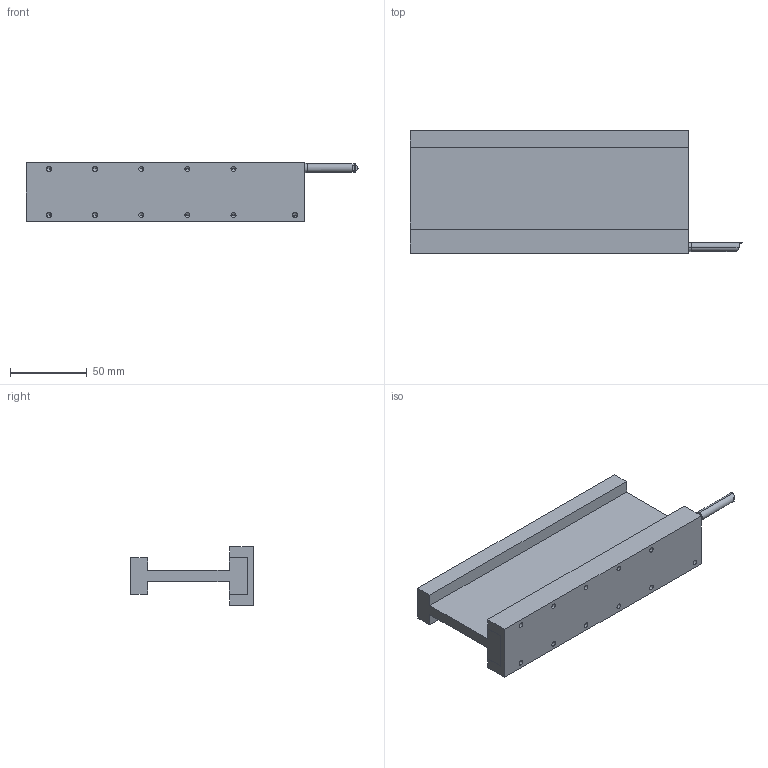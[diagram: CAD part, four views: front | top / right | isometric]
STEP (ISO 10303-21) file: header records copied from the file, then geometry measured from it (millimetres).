
FILE_DESCRIPTION (( 'STEP AP214' ), '1' );
FILE_NAME ('DX50F-C3-NH -REV00.step', '2022-05-06T02:57:10', ( '' ), ( '' ), 'SwSTEP 2.0', 'SolidWorks 2020', '' );
FILE_SCHEMA (( 'AUTOMOTIVE_DESIGN' ));
Length unit declared in the file: millimetre
Products named in the file (1): DX50F-C3-NH -REV00
Bounding box: 216 x 80 x 38.2 mm (x, y, z)
Volume: 222741.7 mm3; surface area: 70515.2 mm2
Topology: 3 solids, 3 shells, 101 faces, 248 edges, 144 vertices
Faces by surface type: cylinder 38, plane 37, cone 24, torus 2
Entity records: 3954 total; most frequent: CARTESIAN_POINT 497, DIRECTION 496, ORIENTED_EDGE 448, EDGE_CURVE 224, AXIS2_PLACEMENT_3D 179, VERTEX_POINT 144, VECTOR 138, LINE 138
